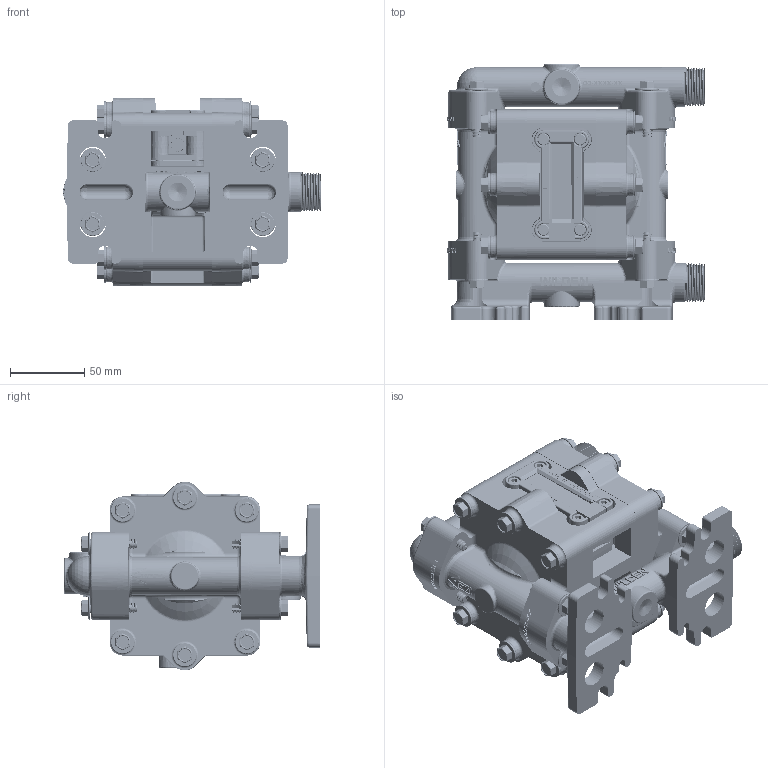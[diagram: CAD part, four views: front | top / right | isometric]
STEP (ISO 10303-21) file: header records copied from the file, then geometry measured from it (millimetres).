
FILE_DESCRIPTION((''),'2;1');
FILE_NAME('P25_ADVANCED_PLASTIC','2022-07-07T23:46:38',('11010273'),(''),'CREO PARAMETRIC BY PTC INC, 2022124','CREO PARAMETRIC BY PTC INC, 2022124','');
FILE_SCHEMA(('CONFIG_CONTROL_DESIGN'));
Products named in the file (1): P25_ADVANCED_PLASTIC
Bounding box: 173.74 x 172.47 x 127.4 mm (x, y, z)
Volume: 1284652.4 mm3; surface area: 189765.2 mm2
Topology: 1 solids, 1 shells, 5454 faces, 14238 edges, 8949 vertices
Faces by surface type: plane 2024, cylinder 1093, bspline 760, torus 634, cone 364, sphere 305, extrusion 274
Entity records: 283248 total; most frequent: CARTESIAN_POINT 158163, ORIENTED_EDGE 28458, DIRECTION 22723, EDGE_CURVE 14229, VERTEX_POINT 8949, AXIS2_PLACEMENT_3D 8202, VECTOR 6319, LINE 6045
